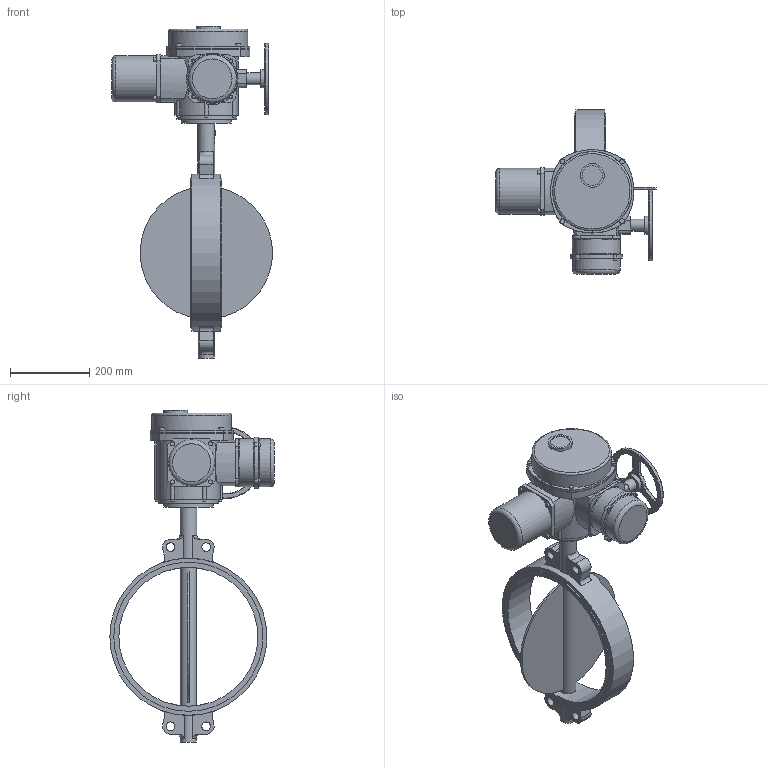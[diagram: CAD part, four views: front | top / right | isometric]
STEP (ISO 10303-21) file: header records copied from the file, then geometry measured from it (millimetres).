
FILE_DESCRIPTION(('STEP AP203'), '1');
FILE_NAME('青蜮铕 017W.Y_DN350_PN10_QT.Z 120', '', ('UNSPECIFIED'), ('UNSPECIFIED'), 'ASCON STEP Converter 1.6', 'ASCON Math Kernel', '');
FILE_SCHEMA(('CONFIG_CONTROL_DESIGN'));
Length unit declared in the file: millimetre
Bounding box: 404.05 x 413.8 x 836 mm (x, y, z)
Volume: 12692813.9 mm3; surface area: 932804.8 mm2
Topology: 1 solids, 1 shells, 336 faces, 813 edges, 504 vertices
Faces by surface type: cylinder 149, plane 112, torus 51, cone 16, bspline 8
Full cylindrical faces by diameter (mm): 8 x10, 8.376 x4, 10 x4, 10.106 x4, 12 x8, 12.386 x1, 22 x4, 30 x1, 40 x2, 42 x1, 45 x1, 50 x1, 60 x1, 116 x1, 120 x2, 125 x1, 150 x1, 180 x1, 200 x1, 350 x1, 375.6 x2, 395.6 x1
Entity records: 15197 total; most frequent: CARTESIAN_POINT 4769, DIRECTION 1735, ORIENTED_EDGE 1438, AXIS2_PLACEMENT_3D 746, EDGE_CURVE 719, VERTEX_POINT 495, EDGE_LOOP 467, CIRCLE 417
